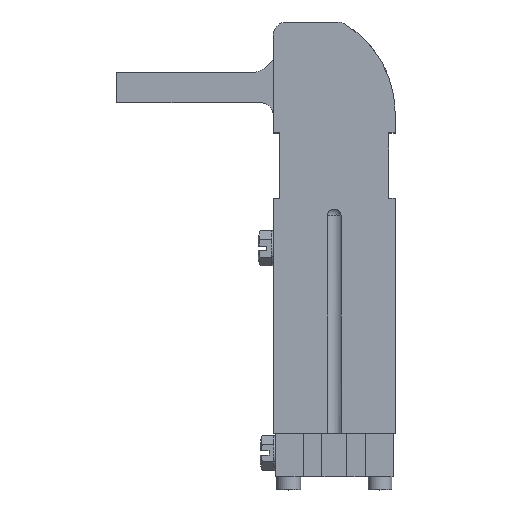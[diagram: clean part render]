
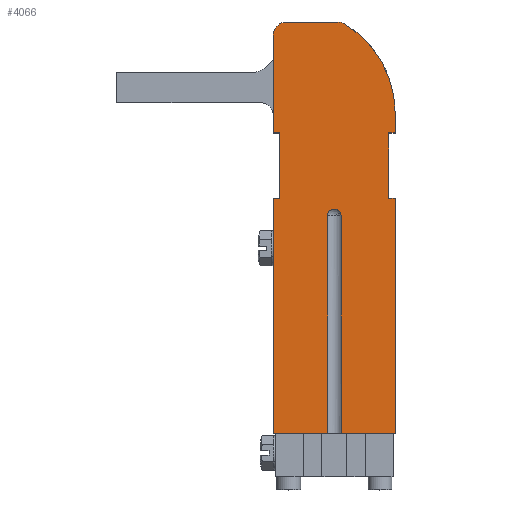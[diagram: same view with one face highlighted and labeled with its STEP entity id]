
A CAD part, top view. The second image highlights one B-rep face of the part: STEP entity #4066.
In plain terms, the highlighted planar face has unit normal (0, 0, 1).
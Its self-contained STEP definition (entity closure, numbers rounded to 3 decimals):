
#377=CARTESIAN_POINT('Vertex',(24.,0.,12.)) ;
#412=CARTESIAN_POINT('Vertex',(12.362,20.571,12.)) ;
#415=CARTESIAN_POINT('Axis2P3D Location',(0.,0.,12.)) ;
#447=CARTESIAN_POINT('Vertex',(10.817,21.,12.)) ;
#450=CARTESIAN_POINT('Axis2P3D Location',(10.817,18.,12.)) ;
#478=CARTESIAN_POINT('Vertex',(-1.,21.,12.)) ;
#481=CARTESIAN_POINT('Line Origine',(4.908,21.,12.)) ;
#502=CARTESIAN_POINT('Vertex',(-4.,18.,12.)) ;
#507=CARTESIAN_POINT('Axis2P3D Location',(-1.,18.,12.)) ;
#542=CARTESIAN_POINT('Vertex',(-4.,-4.5,12.)) ;
#545=CARTESIAN_POINT('Line Origine',(-4.,6.75,12.)) ;
#1057=CARTESIAN_POINT('Vertex',(24.,-4.5,12.)) ;
#1067=CARTESIAN_POINT('Line Origine',(24.,-2.25,12.)) ;
#1264=CARTESIAN_POINT('Vertex',(-2.5,-4.5,12.)) ;
#1267=CARTESIAN_POINT('Line Origine',(-3.25,-4.5,12.)) ;
#1579=CARTESIAN_POINT('Vertex',(22.5,-4.5,12.)) ;
#1582=CARTESIAN_POINT('Line Origine',(23.25,-4.5,12.)) ;
#1675=CARTESIAN_POINT('Vertex',(8.45,-73.532,12.)) ;
#1680=CARTESIAN_POINT('Line Origine',(2.225,-73.532,12.)) ;
#1684=CARTESIAN_POINT('Vertex',(-4.,-73.532,12.)) ;
#1708=CARTESIAN_POINT('Vertex',(24.,-73.532,12.)) ;
#1711=CARTESIAN_POINT('Line Origine',(17.775,-73.532,12.)) ;
#1715=CARTESIAN_POINT('Vertex',(11.55,-73.532,12.)) ;
#1821=CARTESIAN_POINT('Vertex',(24.,-19.5,12.)) ;
#1824=CARTESIAN_POINT('Line Origine',(24.,-46.516,12.)) ;
#1859=CARTESIAN_POINT('Line Origine',(23.25,-19.5,12.)) ;
#1863=CARTESIAN_POINT('Vertex',(22.5,-19.5,12.)) ;
#1883=CARTESIAN_POINT('Line Origine',(22.5,-12.,12.)) ;
#1976=CARTESIAN_POINT('Vertex',(-2.5,-19.5,12.)) ;
#1979=CARTESIAN_POINT('Line Origine',(-2.5,-12.,12.)) ;
#2067=CARTESIAN_POINT('Vertex',(-4.,-19.5,12.)) ;
#2070=CARTESIAN_POINT('Line Origine',(-3.25,-19.5,12.)) ;
#2082=CARTESIAN_POINT('Line Origine',(-4.,-46.516,12.)) ;
#2170=CARTESIAN_POINT('Axis2P3D Location',(10.,-23.532,12.)) ;
#2174=CARTESIAN_POINT('Vertex',(11.55,-23.532,12.)) ;
#2176=CARTESIAN_POINT('Vertex',(11.36,-22.789,12.)) ;
#2204=CARTESIAN_POINT('Vertex',(11.55,-23.54,12.)) ;
#2207=CARTESIAN_POINT('Axis2P3D Location',(10.,-23.532,12.)) ;
#2233=CARTESIAN_POINT('Line Origine',(11.55,-48.536,12.)) ;
#2252=CARTESIAN_POINT('Vertex',(8.45,-23.54,12.)) ;
#2255=CARTESIAN_POINT('Line Origine',(8.45,-48.536,12.)) ;
#2287=CARTESIAN_POINT('Axis2P3D Location',(10.,-23.532,12.)) ;
#2291=CARTESIAN_POINT('Vertex',(8.45,-23.532,12.)) ;
#2294=CARTESIAN_POINT('Axis2P3D Location',(10.,-23.532,12.)) ;
#4037=CARTESIAN_POINT('Axis2P3D Location',(9.592,21.,12.)) ;
#416=DIRECTION('Axis2P3D Direction',(0.,0.,1.)) ;
#451=DIRECTION('Axis2P3D Direction',(0.,-0.,1.)) ;
#482=DIRECTION('Vector Direction',(-1.,0.,0.)) ;
#508=DIRECTION('Axis2P3D Direction',(0.,0.,1.)) ;
#546=DIRECTION('Vector Direction',(0.,-1.,0.)) ;
#1068=DIRECTION('Vector Direction',(0.,1.,0.)) ;
#1268=DIRECTION('Vector Direction',(1.,0.,0.)) ;
#1583=DIRECTION('Vector Direction',(-1.,0.,0.)) ;
#1681=DIRECTION('Vector Direction',(1.,0.,0.)) ;
#1712=DIRECTION('Vector Direction',(1.,0.,0.)) ;
#1825=DIRECTION('Vector Direction',(0.,1.,0.)) ;
#1860=DIRECTION('Vector Direction',(-1.,0.,0.)) ;
#1884=DIRECTION('Vector Direction',(0.,1.,0.)) ;
#1980=DIRECTION('Vector Direction',(0.,-1.,0.)) ;
#2071=DIRECTION('Vector Direction',(1.,0.,0.)) ;
#2083=DIRECTION('Vector Direction',(0.,-1.,0.)) ;
#2171=DIRECTION('Axis2P3D Direction',(0.,0.,1.)) ;
#2208=DIRECTION('Axis2P3D Direction',(0.,0.,1.)) ;
#2234=DIRECTION('Vector Direction',(0.,1.,0.)) ;
#2256=DIRECTION('Vector Direction',(0.,1.,0.)) ;
#2288=DIRECTION('Axis2P3D Direction',(0.,0.,1.)) ;
#2295=DIRECTION('Axis2P3D Direction',(0.,0.,1.)) ;
#4038=DIRECTION('Axis2P3D Direction',(0.,0.,1.)) ;
#4039=DIRECTION('Axis2P3D XDirection',(1.,0.,0.)) ;
#417=AXIS2_PLACEMENT_3D('Circle Axis2P3D',#415,#416,$) ;
#452=AXIS2_PLACEMENT_3D('Circle Axis2P3D',#450,#451,$) ;
#509=AXIS2_PLACEMENT_3D('Circle Axis2P3D',#507,#508,$) ;
#2172=AXIS2_PLACEMENT_3D('Circle Axis2P3D',#2170,#2171,$) ;
#2209=AXIS2_PLACEMENT_3D('Circle Axis2P3D',#2207,#2208,$) ;
#2289=AXIS2_PLACEMENT_3D('Circle Axis2P3D',#2287,#2288,$) ;
#2296=AXIS2_PLACEMENT_3D('Circle Axis2P3D',#2294,#2295,$) ;
#4040=AXIS2_PLACEMENT_3D('Plane Axis2P3D',#4037,#4038,#4039) ;
#4043=ORIENTED_EDGE('',*,*,#2211,.F.) ;
#4044=ORIENTED_EDGE('',*,*,#2237,.F.) ;
#4045=ORIENTED_EDGE('',*,*,#1717,.T.) ;
#4046=ORIENTED_EDGE('',*,*,#1828,.T.) ;
#4047=ORIENTED_EDGE('',*,*,#1865,.T.) ;
#4048=ORIENTED_EDGE('',*,*,#1887,.T.) ;
#4049=ORIENTED_EDGE('',*,*,#1586,.F.) ;
#4050=ORIENTED_EDGE('',*,*,#1071,.T.) ;
#4051=ORIENTED_EDGE('',*,*,#419,.T.) ;
#4052=ORIENTED_EDGE('',*,*,#454,.F.) ;
#4053=ORIENTED_EDGE('',*,*,#485,.T.) ;
#4054=ORIENTED_EDGE('',*,*,#511,.T.) ;
#4055=ORIENTED_EDGE('',*,*,#549,.T.) ;
#4056=ORIENTED_EDGE('',*,*,#1271,.T.) ;
#4057=ORIENTED_EDGE('',*,*,#1983,.T.) ;
#4058=ORIENTED_EDGE('',*,*,#2074,.F.) ;
#4059=ORIENTED_EDGE('',*,*,#2086,.T.) ;
#4060=ORIENTED_EDGE('',*,*,#1686,.T.) ;
#4061=ORIENTED_EDGE('',*,*,#2259,.T.) ;
#4062=ORIENTED_EDGE('',*,*,#2298,.T.) ;
#4063=ORIENTED_EDGE('',*,*,#2293,.F.) ;
#4064=ORIENTED_EDGE('',*,*,#2178,.F.) ;
#483=VECTOR('Line Direction',#482,1.) ;
#547=VECTOR('Line Direction',#546,1.) ;
#1069=VECTOR('Line Direction',#1068,1.) ;
#1269=VECTOR('Line Direction',#1268,1.) ;
#1584=VECTOR('Line Direction',#1583,1.) ;
#1682=VECTOR('Line Direction',#1681,1.) ;
#1713=VECTOR('Line Direction',#1712,1.) ;
#1826=VECTOR('Line Direction',#1825,1.) ;
#1861=VECTOR('Line Direction',#1860,1.) ;
#1885=VECTOR('Line Direction',#1884,1.) ;
#1981=VECTOR('Line Direction',#1980,1.) ;
#2072=VECTOR('Line Direction',#2071,1.) ;
#2084=VECTOR('Line Direction',#2083,1.) ;
#2235=VECTOR('Line Direction',#2234,1.) ;
#2257=VECTOR('Line Direction',#2256,1.) ;
#4066=ADVANCED_FACE('TC-81L12-10100_body',(#4065),#4041,.T.) ;
#418=CIRCLE('generated circle',#417,24.) ;
#453=CIRCLE('generated circle',#452,3.) ;
#510=CIRCLE('generated circle',#509,3.) ;
#2173=CIRCLE('generated circle',#2172,1.55) ;
#2210=CIRCLE('generated circle',#2209,1.55) ;
#2290=CIRCLE('generated circle',#2289,1.55) ;
#2297=CIRCLE('generated circle',#2296,1.55) ;
#419=EDGE_CURVE('',#378,#413,#418,.T.) ;
#454=EDGE_CURVE('',#448,#413,#453,.F.) ;
#485=EDGE_CURVE('',#448,#479,#484,.T.) ;
#511=EDGE_CURVE('',#479,#503,#510,.T.) ;
#549=EDGE_CURVE('',#503,#543,#548,.T.) ;
#1071=EDGE_CURVE('',#1058,#378,#1070,.T.) ;
#1271=EDGE_CURVE('',#543,#1265,#1270,.T.) ;
#1586=EDGE_CURVE('',#1058,#1580,#1585,.T.) ;
#1686=EDGE_CURVE('',#1685,#1676,#1683,.T.) ;
#1717=EDGE_CURVE('',#1716,#1709,#1714,.T.) ;
#1828=EDGE_CURVE('',#1709,#1822,#1827,.T.) ;
#1865=EDGE_CURVE('',#1822,#1864,#1862,.T.) ;
#1887=EDGE_CURVE('',#1864,#1580,#1886,.T.) ;
#1983=EDGE_CURVE('',#1265,#1977,#1982,.T.) ;
#2074=EDGE_CURVE('',#2068,#1977,#2073,.T.) ;
#2086=EDGE_CURVE('',#2068,#1685,#2085,.T.) ;
#2178=EDGE_CURVE('',#2175,#2177,#2173,.T.) ;
#2211=EDGE_CURVE('',#2205,#2175,#2210,.T.) ;
#2237=EDGE_CURVE('',#1716,#2205,#2236,.T.) ;
#2259=EDGE_CURVE('',#1676,#2253,#2258,.T.) ;
#2293=EDGE_CURVE('',#2177,#2292,#2290,.T.) ;
#2298=EDGE_CURVE('',#2253,#2292,#2297,.F.) ;
#4042=EDGE_LOOP('',(#4043,#4044,#4045,#4046,#4047,#4048,#4049,#4050,#4051,#4052,#4053,#4054,#4055,#4056,#4057,#4058,#4059,#4060,#4061,#4062,#4063,#4064)) ;
#4065=FACE_OUTER_BOUND('',#4042,.T.) ;
#484=LINE('Line',#481,#483) ;
#548=LINE('Line',#545,#547) ;
#1070=LINE('Line',#1067,#1069) ;
#1270=LINE('Line',#1267,#1269) ;
#1585=LINE('Line',#1582,#1584) ;
#1683=LINE('Line',#1680,#1682) ;
#1714=LINE('Line',#1711,#1713) ;
#1827=LINE('Line',#1824,#1826) ;
#1862=LINE('Line',#1859,#1861) ;
#1886=LINE('Line',#1883,#1885) ;
#1982=LINE('Line',#1979,#1981) ;
#2073=LINE('Line',#2070,#2072) ;
#2085=LINE('Line',#2082,#2084) ;
#2236=LINE('Line',#2233,#2235) ;
#2258=LINE('Line',#2255,#2257) ;
#4041=PLANE('Plane',#4040) ;
#378=VERTEX_POINT('',#377) ;
#413=VERTEX_POINT('',#412) ;
#448=VERTEX_POINT('',#447) ;
#479=VERTEX_POINT('',#478) ;
#503=VERTEX_POINT('',#502) ;
#543=VERTEX_POINT('',#542) ;
#1058=VERTEX_POINT('',#1057) ;
#1265=VERTEX_POINT('',#1264) ;
#1580=VERTEX_POINT('',#1579) ;
#1676=VERTEX_POINT('',#1675) ;
#1685=VERTEX_POINT('',#1684) ;
#1709=VERTEX_POINT('',#1708) ;
#1716=VERTEX_POINT('',#1715) ;
#1822=VERTEX_POINT('',#1821) ;
#1864=VERTEX_POINT('',#1863) ;
#1977=VERTEX_POINT('',#1976) ;
#2068=VERTEX_POINT('',#2067) ;
#2175=VERTEX_POINT('',#2174) ;
#2177=VERTEX_POINT('',#2176) ;
#2205=VERTEX_POINT('',#2204) ;
#2253=VERTEX_POINT('',#2252) ;
#2292=VERTEX_POINT('',#2291) ;
